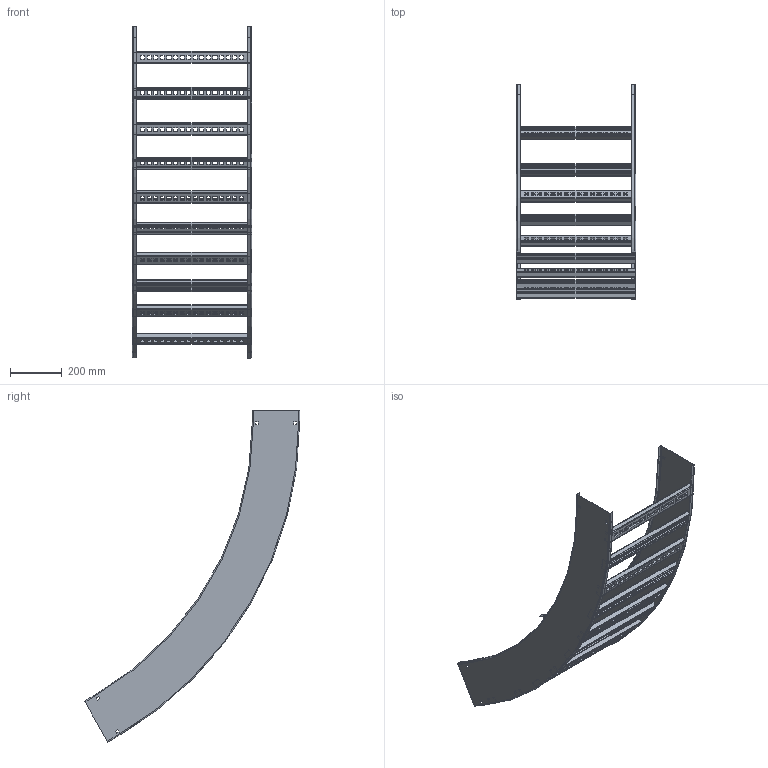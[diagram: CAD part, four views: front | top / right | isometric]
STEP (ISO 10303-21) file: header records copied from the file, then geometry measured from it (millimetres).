
FILE_DESCRIPTION((''),'2;1');
FILE_NAME('AUF718VVI6048_ASM','2010-02-01T',('erouzier'),(''),'PRO/ENGINEER BY PARAMETRIC TECHNOLOGY CORPORATION, 2008510','PRO/ENGINEER BY PARAMETRIC TECHNOLOGY CORPORATION, 2008510','');
FILE_SCHEMA(('CONFIG_CONTROL_DESIGN'));
Length unit declared in the file: inch
Products named in the file (3): CDS001419_7_60_48; CDS002159L18-P; AUF718VVI6048_ASM
Assembly tree (12 placements, depth 2):
  AUF718VVI6048_ASM
    CDS001419_7_60_48  x2
    CDS002159L18-P  x10
Bounding box: 461.31 x 830.52 x 1280.52 mm (x, y, z)
Volume: 1834992.8 mm3; surface area: 2237690.6 mm2
Topology: 12 solids, 12 shells, 1696 faces, 4952 edges, 3280 vertices
Faces by surface type: plane 914, cylinder 774, torus 8
Entity records: 7184 total; most frequent: DIRECTION 1244, CARTESIAN_POINT 1227, ORIENTED_EDGE 1208, EDGE_CURVE 604, VECTOR 426, LINE 426, AXIS2_PLACEMENT_3D 409, VERTEX_POINT 392
